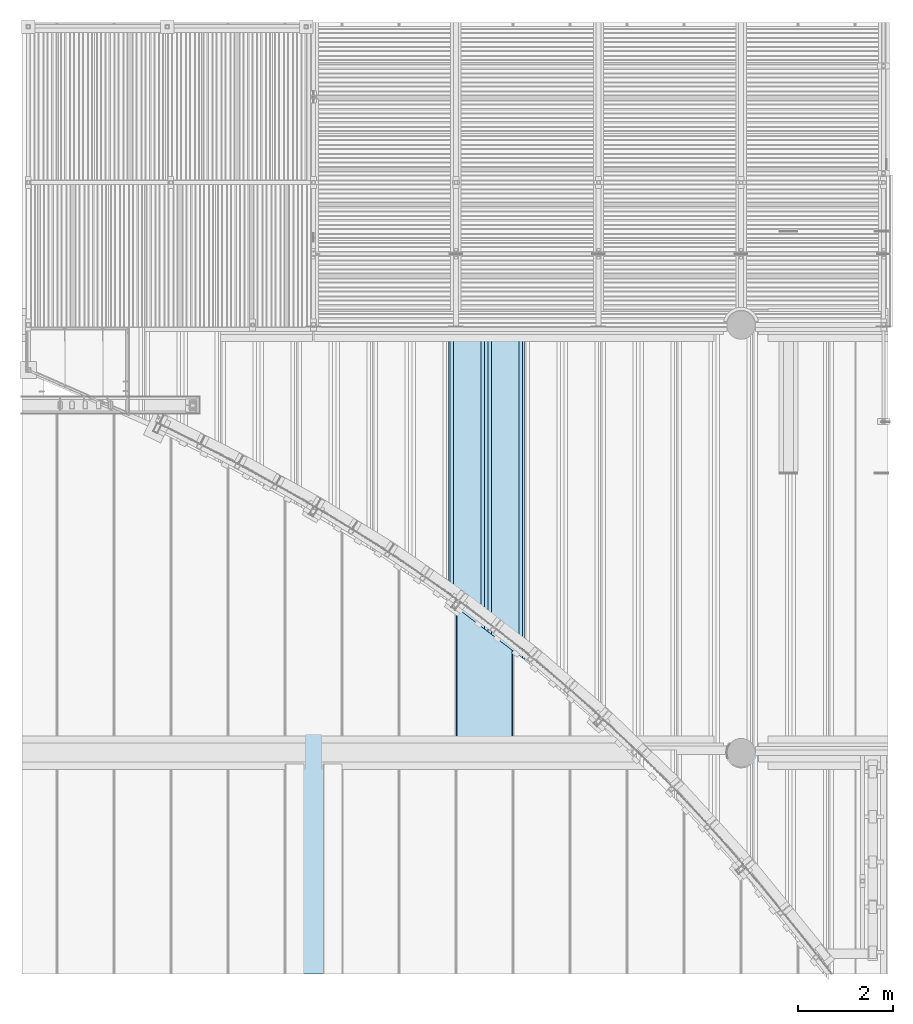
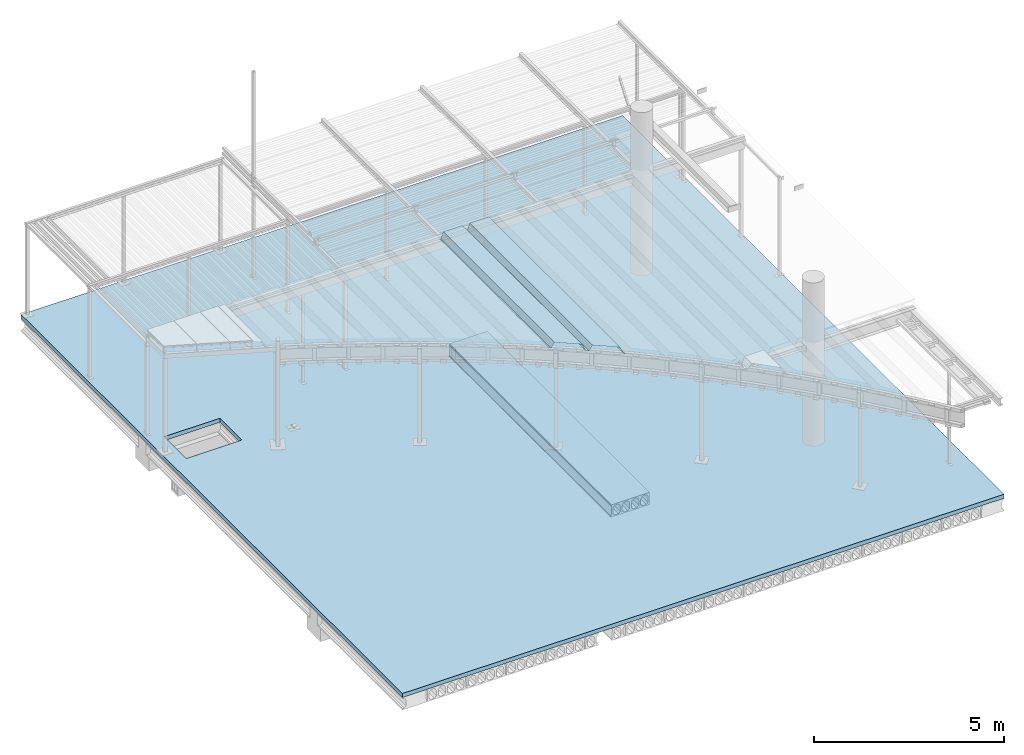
# One storey, part 63 of 98: 3 slabs.
"""IFC2X3 building model written with IfcOpenShell, lengths in millimetres."""

from ifc_helpers import new_model, entity, si_unit, converted_unit, derived_unit, direction, frame, origin_with_axes, place, context, subcontext, project, spatial, faceted_brep, material, type_object, element, save


model = new_model("IFC2X3")

# Units and contexts
model_context = context("Model", 3, precision=0.01, world=frame((0.0, 4.29681676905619e-09, 0.0)), true_north=direction((4.01073788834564e-13, 1.0)))
plan_context = context("Plan", 3, precision=0.01, world=frame((0.0, 4.29681676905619e-09, 0.0)), true_north=direction((4.01073788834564e-13, 1.0)))
body_context = subcontext(model_context, "Body", "Model", "MODEL_VIEW")
ifc_project = project(units=[converted_unit("PLANEANGLEUNIT", "DEGREE", entity("IfcPositiveLengthMeasure", 0.0174532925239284), si_unit("PLANEANGLEUNIT", "RADIAN"), dimensions=[0, 0, 0, 0, 0, 0, 0]), si_unit("AREAUNIT", "SQUARE_METRE"), si_unit("LENGTHUNIT", "METRE", prefix="MILLI"), si_unit("MASSUNIT", "GRAM", prefix="KILO"), si_unit("POWERUNIT", "WATT"), si_unit("PRESSUREUNIT", "PASCAL"), si_unit("FORCEUNIT", "NEWTON", prefix="KILO"), si_unit("ELECTRICCURRENTUNIT", "AMPERE"), si_unit("THERMODYNAMICTEMPERATUREUNIT", "DEGREE_CELSIUS"), si_unit("TIMEUNIT", "SECOND"), si_unit("VOLUMEUNIT", "CUBIC_METRE"), derived_unit("LINEARVELOCITYUNIT", [(si_unit("LENGTHUNIT", "METRE"), 1), (si_unit("TIMEUNIT", "SECOND"), -1)]), derived_unit("VOLUMETRICFLOWRATEUNIT", [(si_unit("VOLUMEUNIT", "CUBIC_METRE"), 1), (si_unit("TIMEUNIT", "SECOND"), -1)]), derived_unit("THERMALTRANSMITTANCEUNIT", [(si_unit("POWERUNIT", "WATT"), 1), (si_unit("THERMODYNAMICTEMPERATUREUNIT", "KELVIN"), -1), (si_unit("AREAUNIT", "SQUARE_METRE"), -1)])], contexts=[model_context, plan_context])

# Site, building, storey
site_placement = place(None, frame((0.0, -4.29681676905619e-09, 0.0), z_axis=(0.0, 0.0, 1.0), x_axis=(1.0, 0.0, 0.0)))
site = spatial("IfcSite", under=ifc_project, at=site_placement, Name="Gardermoen", CompositionType="ELEMENT")
building_placement = place(site_placement, frame((0.0, 4.29681676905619e-09, 0.0), z_axis=(0.0, 0.0, 1.0), x_axis=(1.0, 0.0, 0.0)))
building = spatial("IfcBuilding", under=site, at=building_placement, Name="TS", CompositionType="ELEMENT")
storey_placement = place(building_placement, origin_with_axes())
storey = spatial("IfcBuildingStorey", under=building, at=storey_placement, Name="D", CompositionType="ELEMENT", Elevation=0.0)

# Slabs
ifc_material_1 = material(Name="CONCRETE/C45/55")
slab_type_1 = type_object("IfcSlabType", Name="HD400", PredefinedType="NOTDEFINED")
slab_1_placement = place(storey_placement, frame((523599.999766, 405739.995625, 203600.0), z_axis=(0.0, 0.0, 1.0), x_axis=(0.0, 1.0, 0.0)))
element("IfcSlab", 1, at=slab_1_placement, inside=storey, type_object=slab_type_1, material=ifc_material_1, Name="HULLDEKKE", ObjectType="HD400", PredefinedType="FLOOR", context=body_context, shape_type="Brep", body=[
    faceted_brep([(0.0, 600.0, -190.0), (0.0, 600.0, -180.0), (8520.00875000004, 600.0, -180.0), (8520.00875000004, 600.0, -190.0), (0.0, 585.0, -170.0), (8520.00875000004, 585.0, -170.0), (0.0, 577.5, 145.0), (8520.00875000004, 577.5, 145.0), (0.0, 570.0, 160.0), (8520.00875000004, 570.0, 160.0), (0.0, 577.5, 175.0), (8520.00875000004, 577.5, 175.0), (0.0, 577.5, 200.0), (8520.00875000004, 577.5, 200.0), (0.0, -577.5, 200.0), (8520.00875000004, -577.5, 200.0), (0.0, -577.5, 175.0), (8520.00875000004, -577.5, 175.0), (0.0, -570.0, 160.0), (8520.00875000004, -570.0, 160.0), (0.0, -577.5, 145.0), (8520.00875000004, -577.5, 145.0), (0.0, -585.0, -170.0), (8520.00875000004, -585.0, -170.0), (0.0, -600.0, -180.0), (8520.00875000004, -600.0, -180.0), (0.0, -600.0, -190.0), (8520.00875000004, -600.0, -190.0), (0.0, -583.380004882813, -200.0), (8520.00875000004, -583.380004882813, -200.0), (0.0, 583.380004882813, -200.0), (8520.00875000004, 583.380004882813, -200.0), (0.0, -362.5, -160.0), (0.0, -477.5, -160.0), (8520.00875000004, -477.5, -160.0), (8520.00875000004, -362.5, -160.0), (0.0, -532.5, -105.0), (8520.00875000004, -532.5, -105.0), (0.0, -532.5, 47.5), (8520.00875000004, -532.5, 47.5), (0.0, -532.115755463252, 56.7901763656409), (8520.00875000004, -532.115755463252, 56.7901763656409), (0.0, -530.965646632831, 66.0168914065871), (8520.00875000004, -530.965646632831, 66.0168914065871), (0.0, -529.057529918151, 75.1171173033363), (8520.00875000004, -529.057529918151, 75.1171173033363), (0.0, -526.404439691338, 84.028690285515), (8520.00875000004, -526.404439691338, 84.028690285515), (0.0, -523.024499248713, 92.6907352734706), (8520.00875000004, -523.024499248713, 92.6907352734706), (0.0, -518.940797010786, 101.044081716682), (8520.00875000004, -518.940797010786, 101.044081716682), (0.0, -514.181228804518, 109.031667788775), (8520.00875000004, -514.181228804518, 109.031667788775), (0.0, -508.778307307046, 116.598930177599), (8520.00875000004, -508.778307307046, 116.598930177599), (0.0, -502.768939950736, 123.694176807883), (8520.00875000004, -502.768939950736, 123.694176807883), (0.0, -496.194176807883, 130.268939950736), (8520.00875000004, -496.194176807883, 130.268939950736), (0.0, -489.098930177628, 136.278307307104), (8520.00875000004, -489.098930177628, 136.278307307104), (0.0, -481.531667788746, 141.681228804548), (8520.00875000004, -481.531667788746, 141.681228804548), (0.0, -473.544081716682, 146.440797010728), (8520.00875000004, -473.544081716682, 146.440797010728), (0.0, -465.190735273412, 150.524499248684), (8520.00875000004, -465.190735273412, 150.524499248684), (0.0, -456.528690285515, 153.904439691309), (8520.00875000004, -456.528690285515, 153.904439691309), (0.0, -447.617117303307, 156.55752991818), (8520.00875000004, -447.617117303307, 156.55752991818), (0.0, -438.516891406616, 158.465646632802), (8520.00875000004, -438.516891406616, 158.465646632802), (0.0, -429.290176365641, 159.615755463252), (8520.00875000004, -429.290176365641, 159.615755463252), (0.0, -420.0, 160.0), (8520.00875000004, -420.0, 160.0), (0.0, -410.709823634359, 159.615755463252), (8520.00875000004, -410.709823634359, 159.615755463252), (0.0, -401.483108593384, 158.465646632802), (8520.00875000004, -401.483108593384, 158.465646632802), (0.0, -392.382882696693, 156.55752991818), (8520.00875000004, -392.382882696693, 156.55752991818), (0.0, -383.471309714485, 153.904439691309), (8520.00875000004, -383.471309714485, 153.904439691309), (0.0, -374.809264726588, 150.524499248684), (8520.00875000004, -374.809264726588, 150.524499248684), (0.0, -366.455918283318, 146.440797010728), (8520.00875000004, -366.455918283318, 146.440797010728), (0.0, -358.468332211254, 141.681228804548), (8520.00875000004, -358.468332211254, 141.681228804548), (0.0, -350.901069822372, 136.278307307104), (8520.00875000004, -350.901069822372, 136.278307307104), (0.0, -343.805823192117, 130.268939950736), (8520.00875000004, -343.805823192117, 130.268939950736), (0.0, -337.231060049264, 123.694176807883), (8520.00875000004, -337.231060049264, 123.694176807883), (0.0, -331.221692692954, 116.598930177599), (8520.00875000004, -331.221692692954, 116.598930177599), (0.0, -325.818771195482, 109.031667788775), (8520.00875000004, -325.818771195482, 109.031667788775), (0.0, -321.059202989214, 101.044081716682), (8520.00875000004, -321.059202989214, 101.044081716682), (0.0, -316.975500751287, 92.6907352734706), (8520.00875000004, -316.975500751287, 92.6907352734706), (0.0, -313.595560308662, 84.028690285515), (8520.00875000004, -313.595560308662, 84.028690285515), (0.0, -310.942470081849, 75.1171173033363), (8520.00875000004, -310.942470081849, 75.1171173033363), (0.0, -309.034353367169, 66.0168914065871), (8520.00875000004, -309.034353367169, 66.0168914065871), (0.0, -307.884244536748, 56.7901763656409), (8520.00875000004, -307.884244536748, 56.7901763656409), (0.0, -307.5, 47.5), (8520.00875000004, -307.5, 47.5), (0.0, -307.5, -105.0), (8520.00875000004, -307.5, -105.0), (0.0, -82.5, -160.0), (0.0, -197.5, -160.0), (8520.00875000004, -197.5, -160.0), (8520.00875000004, -82.5, -160.0), (0.0, -252.5, -105.0), (8520.00875000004, -252.5, -105.0), (0.0, -252.5, 47.5), (8520.00875000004, -252.5, 47.5), (0.0, -252.115755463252, 56.7901763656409), (8520.00875000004, -252.115755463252, 56.7901763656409), (0.0, -250.965646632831, 66.0168914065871), (8520.00875000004, -250.965646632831, 66.0168914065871), (0.0, -249.057529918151, 75.1171173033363), (8520.00875000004, -249.057529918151, 75.1171173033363), (0.0, -246.404439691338, 84.028690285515), (8520.00875000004, -246.404439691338, 84.028690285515), (0.0, -243.024499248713, 92.6907352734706), (8520.00875000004, -243.024499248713, 92.6907352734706), (0.0, -238.940797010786, 101.044081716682), (8520.00875000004, -238.940797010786, 101.044081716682), (0.0, -234.181228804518, 109.031667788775), (8520.00875000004, -234.181228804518, 109.031667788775), (0.0, -228.778307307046, 116.598930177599), (8520.00875000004, -228.778307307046, 116.598930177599), (0.0, -222.768939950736, 123.694176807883), (8520.00875000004, -222.768939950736, 123.694176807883), (0.0, -216.194176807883, 130.268939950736), (8520.00875000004, -216.194176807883, 130.268939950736), (0.0, -209.098930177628, 136.278307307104), (8520.00875000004, -209.098930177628, 136.278307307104), (0.0, -201.531667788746, 141.681228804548), (8520.00875000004, -201.531667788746, 141.681228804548), (0.0, -193.544081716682, 146.440797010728), (8520.00875000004, -193.544081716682, 146.440797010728), (0.0, -185.190735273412, 150.524499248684), (8520.00875000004, -185.190735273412, 150.524499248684), (0.0, -176.528690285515, 153.904439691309), (8520.00875000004, -176.528690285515, 153.904439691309), (0.0, -167.617117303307, 156.55752991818), (8520.00875000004, -167.617117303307, 156.55752991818), (0.0, -158.516891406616, 158.465646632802), (8520.00875000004, -158.516891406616, 158.465646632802), (0.0, -149.290176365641, 159.615755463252), (8520.00875000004, -149.290176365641, 159.615755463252), (0.0, -140.0, 160.0), (8520.00875000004, -140.0, 160.0), (0.0, -130.709823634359, 159.615755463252), (8520.00875000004, -130.709823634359, 159.615755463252), (0.0, -121.483108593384, 158.465646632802), (8520.00875000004, -121.483108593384, 158.465646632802), (0.0, -112.382882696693, 156.55752991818), (8520.00875000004, -112.382882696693, 156.55752991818), (0.0, -103.471309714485, 153.904439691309), (8520.00875000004, -103.471309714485, 153.904439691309), (0.0, -94.8092647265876, 150.524499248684), (8520.00875000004, -94.8092647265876, 150.524499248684), (0.0, -86.4559182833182, 146.440797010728), (8520.00875000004, -86.4559182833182, 146.440797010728), (0.0, -78.4683322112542, 141.681228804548), (8520.00875000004, -78.4683322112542, 141.681228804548), (0.0, -70.9010698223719, 136.278307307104), (8520.00875000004, -70.9010698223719, 136.278307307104), (0.0, -63.8058231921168, 130.268939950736), (8520.00875000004, -63.8058231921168, 130.268939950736), (0.0, -57.2310600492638, 123.694176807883), (8520.00875000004, -57.2310600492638, 123.694176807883), (0.0, -51.2216926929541, 116.598930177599), (8520.00875000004, -51.2216926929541, 116.598930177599), (0.0, -45.8187711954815, 109.031667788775), (8520.00875000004, -45.8187711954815, 109.031667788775), (0.0, -41.0592029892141, 101.044081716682), (8520.00875000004, -41.0592029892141, 101.044081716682), (0.0, -36.9755007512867, 92.6907352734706), (8520.00875000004, -36.9755007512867, 92.6907352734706), (0.0, -33.5955603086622, 84.028690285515), (8520.00875000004, -33.5955603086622, 84.028690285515), (0.0, -30.942470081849, 75.1171173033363), (8520.00875000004, -30.942470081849, 75.1171173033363), (0.0, -29.0343533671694, 66.0168914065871), (8520.00875000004, -29.0343533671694, 66.0168914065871), (0.0, -27.8842445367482, 56.7901763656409), (8520.00875000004, -27.8842445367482, 56.7901763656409), (0.0, -27.5, 47.5), (8520.00875000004, -27.5, 47.5), (0.0, -27.5, -105.0), (8520.00875000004, -27.5, -105.0), (0.0, 197.5, -160.0), (0.0, 82.5, -160.0), (8520.00875000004, 82.5, -160.0), (8520.00875000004, 197.5, -160.0), (0.0, 27.5, -105.0), (8520.00875000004, 27.5, -105.0), (0.0, 27.5, 47.5), (8520.00875000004, 27.5, 47.5), (0.0, 27.8842445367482, 56.7901763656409), (8520.00875000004, 27.8842445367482, 56.7901763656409), (0.0, 29.0343533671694, 66.0168914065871), (8520.00875000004, 29.0343533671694, 66.0168914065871), (0.0, 30.942470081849, 75.1171173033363), (8520.00875000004, 30.942470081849, 75.1171173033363), (0.0, 33.5955603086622, 84.028690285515), (8520.00875000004, 33.5955603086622, 84.028690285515), (0.0, 36.9755007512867, 92.6907352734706), (8520.00875000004, 36.9755007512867, 92.6907352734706), (0.0, 41.0592029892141, 101.044081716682), (8520.00875000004, 41.0592029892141, 101.044081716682), (0.0, 45.8187711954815, 109.031667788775), (8520.00875000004, 45.8187711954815, 109.031667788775), (0.0, 51.2216926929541, 116.598930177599), (8520.00875000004, 51.2216926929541, 116.598930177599), (0.0, 57.2310600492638, 123.694176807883), (8520.00875000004, 57.2310600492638, 123.694176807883), (0.0, 63.8058231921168, 130.268939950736), (8520.00875000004, 63.8058231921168, 130.268939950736), (0.0, 70.9010698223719, 136.278307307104), (8520.00875000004, 70.9010698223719, 136.278307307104), (0.0, 78.4683322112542, 141.681228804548), (8520.00875000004, 78.4683322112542, 141.681228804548), (0.0, 86.4559182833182, 146.440797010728), (8520.00875000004, 86.4559182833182, 146.440797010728), (0.0, 94.8092647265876, 150.524499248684), (8520.00875000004, 94.8092647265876, 150.524499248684), (0.0, 103.471309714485, 153.904439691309), (8520.00875000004, 103.471309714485, 153.904439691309), (0.0, 112.382882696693, 156.55752991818), (8520.00875000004, 112.382882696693, 156.55752991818), (0.0, 121.483108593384, 158.465646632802), (8520.00875000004, 121.483108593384, 158.465646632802), (0.0, 130.709823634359, 159.615755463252), (8520.00875000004, 130.709823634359, 159.615755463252), (0.0, 140.0, 160.0), (8520.00875000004, 140.0, 160.0), (0.0, 149.290176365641, 159.615755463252), (8520.00875000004, 149.290176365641, 159.615755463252), (0.0, 158.516891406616, 158.465646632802), (8520.00875000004, 158.516891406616, 158.465646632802), (0.0, 167.617117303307, 156.55752991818), (8520.00875000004, 167.617117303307, 156.55752991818), (0.0, 176.528690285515, 153.904439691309), (8520.00875000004, 176.528690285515, 153.904439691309), (0.0, 185.190735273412, 150.524499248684), (8520.00875000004, 185.190735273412, 150.524499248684), (0.0, 193.544081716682, 146.440797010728), (8520.00875000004, 193.544081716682, 146.440797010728), (0.0, 201.531667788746, 141.681228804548), (8520.00875000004, 201.531667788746, 141.681228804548), (0.0, 209.098930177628, 136.278307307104), (8520.00875000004, 209.098930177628, 136.278307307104), (0.0, 216.194176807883, 130.268939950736), (8520.00875000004, 216.194176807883, 130.268939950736), (0.0, 222.768939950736, 123.694176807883), (8520.00875000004, 222.768939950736, 123.694176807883), (0.0, 228.778307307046, 116.598930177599), (8520.00875000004, 228.778307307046, 116.598930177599), (0.0, 234.181228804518, 109.031667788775), (8520.00875000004, 234.181228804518, 109.031667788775), (0.0, 238.940797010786, 101.044081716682), (8520.00875000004, 238.940797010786, 101.044081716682), (0.0, 243.024499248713, 92.6907352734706), (8520.00875000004, 243.024499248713, 92.6907352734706), (0.0, 246.404439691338, 84.028690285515), (8520.00875000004, 246.404439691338, 84.028690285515), (0.0, 249.057529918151, 75.1171173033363), (8520.00875000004, 249.057529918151, 75.1171173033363), (0.0, 250.965646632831, 66.0168914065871), (8520.00875000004, 250.965646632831, 66.0168914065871), (0.0, 252.115755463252, 56.7901763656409), (8520.00875000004, 252.115755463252, 56.7901763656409), (0.0, 252.5, 47.5), (8520.00875000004, 252.5, 47.5), (0.0, 252.5, -105.0), (8520.00875000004, 252.5, -105.0), (0.0, 477.5, -160.0), (0.0, 362.5, -160.0), (8520.00875000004, 362.5, -160.0), (8520.00875000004, 477.5, -160.0), (0.0, 307.5, -105.0), (8520.00875000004, 307.5, -105.0), (0.0, 307.5, 47.5), (8520.00875000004, 307.5, 47.5), (0.0, 307.884244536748, 56.7901763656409), (8520.00875000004, 307.884244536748, 56.7901763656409), (0.0, 309.034353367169, 66.0168914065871), (8520.00875000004, 309.034353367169, 66.0168914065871), (0.0, 310.942470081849, 75.1171173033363), (8520.00875000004, 310.942470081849, 75.1171173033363), (0.0, 313.595560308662, 84.028690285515), (8520.00875000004, 313.595560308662, 84.028690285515), (0.0, 316.975500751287, 92.6907352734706), (8520.00875000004, 316.975500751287, 92.6907352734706), (0.0, 321.059202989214, 101.044081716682), (8520.00875000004, 321.059202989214, 101.044081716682), (0.0, 325.818771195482, 109.031667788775), (8520.00875000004, 325.818771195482, 109.031667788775), (0.0, 331.221692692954, 116.598930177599), (8520.00875000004, 331.221692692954, 116.598930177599), (0.0, 337.231060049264, 123.694176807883), (8520.00875000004, 337.231060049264, 123.694176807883), (0.0, 343.805823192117, 130.268939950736), (8520.00875000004, 343.805823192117, 130.268939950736), (0.0, 350.901069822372, 136.278307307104), (8520.00875000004, 350.901069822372, 136.278307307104), (0.0, 358.468332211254, 141.681228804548), (8520.00875000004, 358.468332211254, 141.681228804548), (0.0, 366.455918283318, 146.440797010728), (8520.00875000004, 366.455918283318, 146.440797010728), (0.0, 374.809264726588, 150.524499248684), (8520.00875000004, 374.809264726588, 150.524499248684), (0.0, 383.471309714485, 153.904439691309), (8520.00875000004, 383.471309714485, 153.904439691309), (0.0, 392.382882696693, 156.55752991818), (8520.00875000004, 392.382882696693, 156.55752991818), (0.0, 401.483108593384, 158.465646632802), (8520.00875000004, 401.483108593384, 158.465646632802), (0.0, 410.709823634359, 159.615755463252), (8520.00875000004, 410.709823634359, 159.615755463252), (0.0, 420.0, 160.0), (8520.00875000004, 420.0, 160.0), (0.0, 429.290176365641, 159.615755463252), (8520.00875000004, 429.290176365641, 159.615755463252), (0.0, 438.516891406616, 158.465646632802), (8520.00875000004, 438.516891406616, 158.465646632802), (0.0, 447.617117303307, 156.55752991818), (8520.00875000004, 447.617117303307, 156.55752991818), (0.0, 456.528690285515, 153.904439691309), (8520.00875000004, 456.528690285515, 153.904439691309), (0.0, 465.190735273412, 150.524499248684), (8520.00875000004, 465.190735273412, 150.524499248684), (0.0, 473.544081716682, 146.440797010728), (8520.00875000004, 473.544081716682, 146.440797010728), (0.0, 481.531667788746, 141.681228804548), (8520.00875000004, 481.531667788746, 141.681228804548), (0.0, 489.098930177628, 136.278307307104), (8520.00875000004, 489.098930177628, 136.278307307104), (0.0, 496.194176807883, 130.268939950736), (8520.00875000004, 496.194176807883, 130.268939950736), (0.0, 502.768939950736, 123.694176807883), (8520.00875000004, 502.768939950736, 123.694176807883), (0.0, 508.778307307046, 116.598930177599), (8520.00875000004, 508.778307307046, 116.598930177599), (0.0, 514.181228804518, 109.031667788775), (8520.00875000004, 514.181228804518, 109.031667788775), (0.0, 518.940797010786, 101.044081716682), (8520.00875000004, 518.940797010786, 101.044081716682), (0.0, 523.024499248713, 92.6907352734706), (8520.00875000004, 523.024499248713, 92.6907352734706), (0.0, 526.404439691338, 84.028690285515), (8520.00875000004, 526.404439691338, 84.028690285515), (0.0, 529.057529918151, 75.1171173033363), (8520.00875000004, 529.057529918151, 75.1171173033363), (0.0, 530.965646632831, 66.0168914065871), (8520.00875000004, 530.965646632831, 66.0168914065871), (0.0, 532.115755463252, 56.7901763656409), (8520.00875000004, 532.115755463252, 56.7901763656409), (0.0, 532.5, 47.5), (8520.00875000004, 532.5, 47.5), (0.0, 532.5, -105.0), (8520.00875000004, 532.5, -105.0)], [[[0, 1, 2, 3]], [[1, 4, 5, 2]], [[4, 6, 7, 5]], [[6, 8, 9, 7]], [[8, 10, 11, 9]], [[10, 12, 13, 11]], [[12, 14, 15, 13]], [[14, 16, 17, 15]], [[16, 18, 19, 17]], [[18, 20, 21, 19]], [[20, 22, 23, 21]], [[22, 24, 25, 23]], [[24, 26, 27, 25]], [[26, 28, 29, 27]], [[28, 30, 31, 29]], [[30, 0, 3, 31]], [[32, 33, 34, 35]], [[33, 36, 37, 34]], [[36, 38, 39, 37]], [[38, 40, 41, 39]], [[40, 42, 43, 41]], [[42, 44, 45, 43]], [[44, 46, 47, 45]], [[46, 48, 49, 47]], [[48, 50, 51, 49]], [[50, 52, 53, 51]], [[52, 54, 55, 53]], [[54, 56, 57, 55]], [[56, 58, 59, 57]], [[58, 60, 61, 59]], [[60, 62, 63, 61]], [[62, 64, 65, 63]], [[64, 66, 67, 65]], [[66, 68, 69, 67]], [[68, 70, 71, 69]], [[70, 72, 73, 71]], [[72, 74, 75, 73]], [[74, 76, 77, 75]], [[76, 78, 79, 77]], [[78, 80, 81, 79]], [[80, 82, 83, 81]], [[82, 84, 85, 83]], [[84, 86, 87, 85]], [[86, 88, 89, 87]], [[88, 90, 91, 89]], [[90, 92, 93, 91]], [[92, 94, 95, 93]], [[94, 96, 97, 95]], [[96, 98, 99, 97]], [[98, 100, 101, 99]], [[100, 102, 103, 101]], [[102, 104, 105, 103]], [[104, 106, 107, 105]], [[106, 108, 109, 107]], [[108, 110, 111, 109]], [[110, 112, 113, 111]], [[112, 114, 115, 113]], [[114, 116, 117, 115]], [[116, 32, 35, 117]], [[118, 119, 120, 121]], [[119, 122, 123, 120]], [[122, 124, 125, 123]], [[124, 126, 127, 125]], [[126, 128, 129, 127]], [[128, 130, 131, 129]], [[130, 132, 133, 131]], [[132, 134, 135, 133]], [[134, 136, 137, 135]], [[136, 138, 139, 137]], [[138, 140, 141, 139]], [[140, 142, 143, 141]], [[142, 144, 145, 143]], [[144, 146, 147, 145]], [[146, 148, 149, 147]], [[148, 150, 151, 149]], [[150, 152, 153, 151]], [[152, 154, 155, 153]], [[154, 156, 157, 155]], [[156, 158, 159, 157]], [[158, 160, 161, 159]], [[160, 162, 163, 161]], [[162, 164, 165, 163]], [[164, 166, 167, 165]], [[166, 168, 169, 167]], [[168, 170, 171, 169]], [[170, 172, 173, 171]], [[172, 174, 175, 173]], [[174, 176, 177, 175]], [[176, 178, 179, 177]], [[178, 180, 181, 179]], [[180, 182, 183, 181]], [[182, 184, 185, 183]], [[184, 186, 187, 185]], [[186, 188, 189, 187]], [[188, 190, 191, 189]], [[190, 192, 193, 191]], [[192, 194, 195, 193]], [[194, 196, 197, 195]], [[196, 198, 199, 197]], [[198, 200, 201, 199]], [[200, 202, 203, 201]], [[202, 118, 121, 203]], [[204, 205, 206, 207]], [[205, 208, 209, 206]], [[208, 210, 211, 209]], [[210, 212, 213, 211]], [[212, 214, 215, 213]], [[214, 216, 217, 215]], [[216, 218, 219, 217]], [[218, 220, 221, 219]], [[220, 222, 223, 221]], [[222, 224, 225, 223]], [[224, 226, 227, 225]], [[226, 228, 229, 227]], [[228, 230, 231, 229]], [[230, 232, 233, 231]], [[232, 234, 235, 233]], [[234, 236, 237, 235]], [[236, 238, 239, 237]], [[238, 240, 241, 239]], [[240, 242, 243, 241]], [[242, 244, 245, 243]], [[244, 246, 247, 245]], [[246, 248, 249, 247]], [[248, 250, 251, 249]], [[250, 252, 253, 251]], [[252, 254, 255, 253]], [[254, 256, 257, 255]], [[256, 258, 259, 257]], [[258, 260, 261, 259]], [[260, 262, 263, 261]], [[262, 264, 265, 263]], [[264, 266, 267, 265]], [[266, 268, 269, 267]], [[268, 270, 271, 269]], [[270, 272, 273, 271]], [[272, 274, 275, 273]], [[274, 276, 277, 275]], [[276, 278, 279, 277]], [[278, 280, 281, 279]], [[280, 282, 283, 281]], [[282, 284, 285, 283]], [[284, 286, 287, 285]], [[286, 288, 289, 287]], [[288, 204, 207, 289]], [[290, 291, 292, 293]], [[291, 294, 295, 292]], [[294, 296, 297, 295]], [[296, 298, 299, 297]], [[298, 300, 301, 299]], [[300, 302, 303, 301]], [[302, 304, 305, 303]], [[304, 306, 307, 305]], [[306, 308, 309, 307]], [[308, 310, 311, 309]], [[310, 312, 313, 311]], [[312, 314, 315, 313]], [[314, 316, 317, 315]], [[316, 318, 319, 317]], [[318, 320, 321, 319]], [[320, 322, 323, 321]], [[322, 324, 325, 323]], [[324, 326, 327, 325]], [[326, 328, 329, 327]], [[328, 330, 331, 329]], [[330, 332, 333, 331]], [[332, 334, 335, 333]], [[334, 336, 337, 335]], [[336, 338, 339, 337]], [[338, 340, 341, 339]], [[340, 342, 343, 341]], [[342, 344, 345, 343]], [[344, 346, 347, 345]], [[346, 348, 349, 347]], [[348, 350, 351, 349]], [[350, 352, 353, 351]], [[352, 354, 355, 353]], [[354, 356, 357, 355]], [[356, 358, 359, 357]], [[358, 360, 361, 359]], [[360, 362, 363, 361]], [[362, 364, 365, 363]], [[364, 366, 367, 365]], [[366, 368, 369, 367]], [[368, 370, 371, 369]], [[370, 372, 373, 371]], [[372, 374, 375, 373]], [[374, 290, 293, 375]], [[5, 7, 9, 11, 13, 15, 17, 19, 21, 23, 25, 27, 29, 31, 3, 2], [295, 297, 299, 301, 303, 305, 307, 309, 311, 313, 315, 317, 319, 321, 323, 325, 327, 329, 331, 333, 335, 337, 339, 341, 343, 345, 347, 349, 351, 353, 355, 357, 359, 361, 363, 365, 367, 369, 371, 373, 375, 293, 292], [209, 211, 213, 215, 217, 219, 221, 223, 225, 227, 229, 231, 233, 235, 237, 239, 241, 243, 245, 247, 249, 251, 253, 255, 257, 259, 261, 263, 265, 267, 269, 271, 273, 275, 277, 279, 281, 283, 285, 287, 289, 207, 206], [123, 125, 127, 129, 131, 133, 135, 137, 139, 141, 143, 145, 147, 149, 151, 153, 155, 157, 159, 161, 163, 165, 167, 169, 171, 173, 175, 177, 179, 181, 183, 185, 187, 189, 191, 193, 195, 197, 199, 201, 203, 121, 120], [37, 39, 41, 43, 45, 47, 49, 51, 53, 55, 57, 59, 61, 63, 65, 67, 69, 71, 73, 75, 77, 79, 81, 83, 85, 87, 89, 91, 93, 95, 97, 99, 101, 103, 105, 107, 109, 111, 113, 115, 117, 35, 34]], [[30, 28, 26, 24, 22, 20, 18, 16, 14, 12, 10, 8, 6, 4, 1, 0], [374, 372, 370, 368, 366, 364, 362, 360, 358, 356, 354, 352, 350, 348, 346, 344, 342, 340, 338, 336, 334, 332, 330, 328, 326, 324, 322, 320, 318, 316, 314, 312, 310, 308, 306, 304, 302, 300, 298, 296, 294, 291, 290], [288, 286, 284, 282, 280, 278, 276, 274, 272, 270, 268, 266, 264, 262, 260, 258, 256, 254, 252, 250, 248, 246, 244, 242, 240, 238, 236, 234, 232, 230, 228, 226, 224, 222, 220, 218, 216, 214, 212, 210, 208, 205, 204], [202, 200, 198, 196, 194, 192, 190, 188, 186, 184, 182, 180, 178, 176, 174, 172, 170, 168, 166, 164, 162, 160, 158, 156, 154, 152, 150, 148, 146, 144, 142, 140, 138, 136, 134, 132, 130, 128, 126, 124, 122, 119, 118], [116, 114, 112, 110, 108, 106, 104, 102, 100, 98, 96, 94, 92, 90, 88, 86, 84, 82, 80, 78, 76, 74, 72, 70, 68, 66, 64, 62, 60, 58, 56, 54, 52, 50, 48, 46, 44, 42, 40, 38, 36, 33, 32]]]),
])
ifc_material_2 = material(Name="STEEL/S355")
slab_type_2 = type_object("IfcSlabType", Name="PLANNJA200", PredefinedType="NOTDEFINED")
slab_2_placement = place(storey_placement, frame((523640.35, 408657.96, 207199.0), z_axis=(0.0, 0.0, 1.0), x_axis=(0.0, 1.0, 0.0)))
element("IfcSlab", 2, at=slab_2_placement, inside=storey, type_object=slab_type_2, material=ifc_material_2, Name="STÅLTAK", ObjectType="PLANNJA200", PredefinedType="FLOOR", context=body_context, shape_type="Brep", body=[
    faceted_brep([(26.0628735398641, 800.0, -98.5), (-2.1076696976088, 763.196472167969, -98.5), (5787.01999999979, 763.196472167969, -98.5), (5787.01999999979, 800.0, -98.5), (-58.1344830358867, 690.0, 99.5), (5787.01999999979, 690.0, 99.5), (-502.084181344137, 110.0, 99.5), (5787.01999999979, 110.0, 99.5), (-558.110988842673, 36.8035354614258, -98.5), (5787.01999999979, 36.8035354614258, -98.5), (-614.452086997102, -36.8035354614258, -98.5), (5787.01999999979, -36.8035354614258, -98.5), (-670.47889449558, -110.0, 99.5), (5787.01999999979, -110.0, 99.5), (-1114.42859280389, -690.0, 99.5), (5787.01999999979, -690.0, 99.5), (-1170.45540614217, -763.196472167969, -98.5), (5787.01999999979, -763.196472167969, -98.5), (-1198.62594937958, -800.0, -98.5), (5787.01999999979, -800.0, -98.5), (-1198.62594937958, -800.0, -99.5), (5787.01999999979, -800.0, -99.5), (-1169.92230509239, -762.5, -99.5), (5787.01999999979, -762.5, -99.5), (-1113.89549175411, -689.303527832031, 98.5), (5787.01999999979, -689.303527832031, 98.5), (-671.011989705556, -110.696464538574, 98.5), (5787.01999999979, -110.696464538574, 98.5), (-614.98518220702, -37.5, -99.5), (5787.01999999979, -37.5, -99.5), (-557.577893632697, 37.5, -99.5), (5787.01999999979, 37.5, -99.5), (-501.551086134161, 110.696464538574, 98.5), (5787.01999999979, 110.696464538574, 98.5), (-58.6675840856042, 689.303527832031, 98.5), (5787.01999999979, 689.303527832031, 98.5), (-2.64077074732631, 762.5, -99.5), (5787.01999999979, 762.5, -99.5), (26.0628735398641, 800.0, -99.5), (5787.01999999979, 800.0, -99.5)], [[[0, 1, 2, 3]], [[1, 4, 5, 2]], [[4, 6, 7, 5]], [[6, 8, 9, 7]], [[8, 10, 11, 9]], [[10, 12, 13, 11]], [[12, 14, 15, 13]], [[14, 16, 17, 15]], [[16, 18, 19, 17]], [[18, 20, 21, 19]], [[20, 22, 23, 21]], [[22, 24, 25, 23]], [[24, 26, 27, 25]], [[26, 28, 29, 27]], [[28, 30, 31, 29]], [[30, 32, 33, 31]], [[32, 34, 35, 33]], [[34, 36, 37, 35]], [[36, 38, 39, 37]], [[38, 0, 3, 39]], [[5, 7, 9, 11, 13, 15, 17, 19, 21, 23, 25, 27, 29, 31, 33, 35, 37, 39, 3, 2]], [[38, 36, 34, 32, 30, 28, 26, 24, 22, 20, 18, 16, 14, 12, 10, 8, 6, 4, 1, 0]]]),
])
slab_type_3 = type_object("IfcSlabType", Name="130*32640", PredefinedType="NOTDEFINED")
slab_3_placement = place(storey_placement, frame((505659.921191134, 396499.999492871, 203865.0), z_axis=(0.0, 1.0, 0.0), x_axis=(1.0, 0.0, 0.0)))
element("IfcSlab", 3, at=slab_3_placement, inside=storey, type_object=slab_type_3, Name="PÅSTØP", ObjectType="130*32640", PredefinedType="FLOOR", context=body_context, shape_type="Brep", body=[
    faceted_brep([(8202.57880886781, -65.0, 4345.67716608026), (8202.57880886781, -65.0, 24370.1919605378), (26435.0788088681, -65.0, 24370.1919605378), (26435.0788088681, -65.0, 4345.67716608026), (10350.0790928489, -65.0, 16500.0039921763), (10350.0789589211, -65.0, 17650.000062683), (8669.96896609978, -65.0, 17650.0000882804), (8670.07725760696, -65.0, 16499.9690875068), (8669.96896609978, 65.0, 17650.0000882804), (8670.07725760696, 65.0, 16499.9690875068), (10350.0790928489, 65.0, 16500.0039921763), (10350.0789589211, 65.0, 17650.000062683), (8202.57880886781, 64.9999999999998, 24370.1919605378), (8202.57880886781, 64.9999999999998, 4345.67716608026), (26435.0788088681, 64.9999999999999, 4345.67716608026), (26435.0788088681, 64.9999999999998, 24370.1919605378)], [[[0, 1, 2, 3], [4, 5, 6, 7]], [[6, 8, 9, 7]], [[7, 9, 10, 4]], [[4, 10, 11, 5]], [[5, 11, 8, 6]], [[12, 13, 14, 15], [8, 11, 10, 9]], [[3, 2, 15, 14]], [[2, 1, 12, 15]], [[1, 0, 13, 12]], [[0, 3, 14, 13]]], orient=[[False, False], [False], [False], [False], [False], [False, False], [False], [False], [False], [False]]),
])

save(model, "model.ifc")
